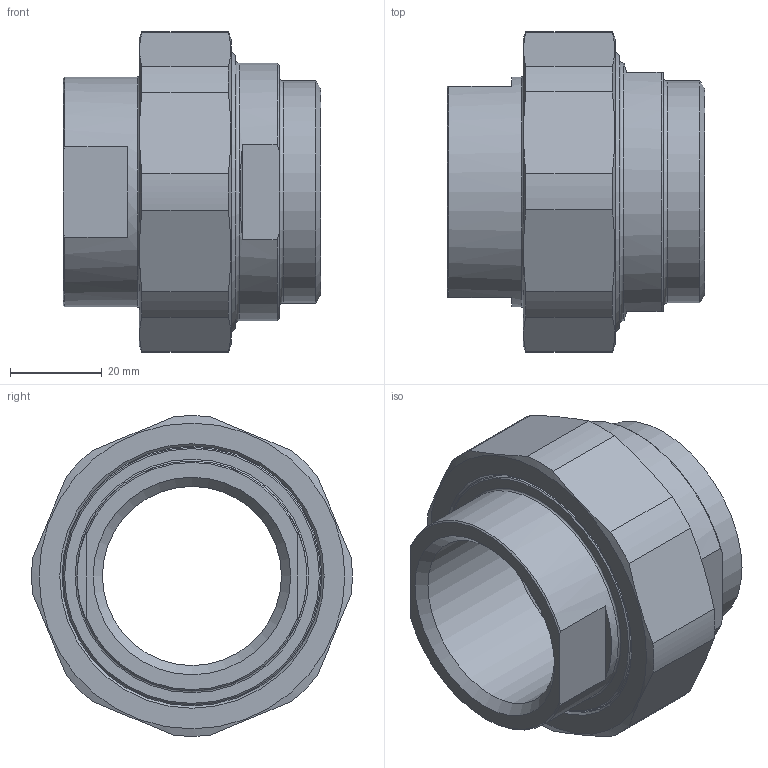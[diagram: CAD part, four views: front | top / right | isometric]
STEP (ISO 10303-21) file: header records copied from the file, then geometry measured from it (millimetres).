
FILE_DESCRIPTION(/* description */ (''),/* implementation_level */ '2;1');
FILE_NAME(/* name */ 'C:\Users\cad\Desktop\Zeichnungen neu von Ralph\Ganze Kupplungen\3D_Kupplung-R134-E-SG\3D_R134-E-SG-DN32-48.3_17101732.stp',/* time_stamp */ '2021-06-30T15:58:12+02:00',/* author */ ('cad'),/* organization */ (''),/* preprocessor_version */ 'ST-DEVELOPER v18.1',/* originating_system */ 'Autodesk Inventor 2022',/* authorisation */ '');
FILE_SCHEMA (('CONFIG_CONTROL_DESIGN','AUTOMOTIVE_DESIGN { 1 0 10303 214 3 1 1 }'));
Length unit declared in the file: millimetre
Products named in the file (4): 3D_R134-E-SG-DN32-48.3_17101732; 3D_R134-M-DN40_171011630; 3D_R134-SG-48.3_171011530; 3D_R134-E-DN32-DN40_171011032
Assembly tree (3 placements, depth 2):
  3D_R134-E-SG-DN32-48.3_17101732
    3D_R134-M-DN40_171011630
    3D_R134-SG-48.3_171011530
    3D_R134-E-DN32-DN40_171011032
Bounding box: 56 x 69.68 x 69.65 mm (x, y, z)
Volume: 70835.1 mm3; surface area: 32698.2 mm2
Topology: 3 solids, 3 shells, 79 faces, 193 edges, 127 vertices
Faces by surface type: plane 29, cone 21, cylinder 19, torus 10
Full cylindrical faces by diameter (mm): 38.952 x1, 43.1 x1, 43.3 x1, 48.3 x1, 50 x1, 56 x2, 56.5 x1, 60 x1, 60.376 x1, 61.85 x1
Entity records: 2507 total; most frequent: CARTESIAN_POINT 454, DIRECTION 450, ORIENTED_EDGE 386, AXIS2_PLACEMENT_3D 195, EDGE_CURVE 193, VERTEX_POINT 127, CIRCLE 107, EDGE_LOOP 92
